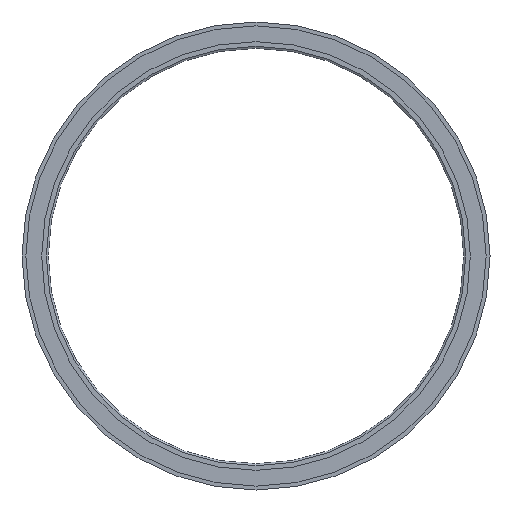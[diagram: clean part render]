
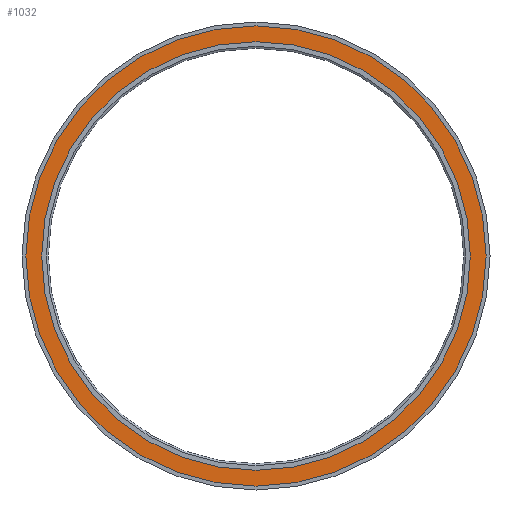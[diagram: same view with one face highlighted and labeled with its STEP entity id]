
A CAD part, left-side view. The second image highlights one B-rep face of the part: STEP entity #1032.
In plain terms, the highlighted planar face has unit normal (-1, 0, 0).
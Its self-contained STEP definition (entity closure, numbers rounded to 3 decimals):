
#391=CARTESIAN_POINT('',(2.,118.0,0.0));
#392=VERTEX_POINT('',#391);
#408=CARTESIAN_POINT('',(2.,-118.0,0.));
#409=VERTEX_POINT('',#408);
#416=CARTESIAN_POINT('',(2.,0.0,0.0));
#417=DIRECTION('',(1.0,0.0,0.0));
#418=DIRECTION('',(0.0,1.0,0.0));
#419=AXIS2_PLACEMENT_3D('',#416,#417,#418);
#420=CIRCLE('',#419,118.0);
#421=EDGE_CURVE('',#409,#392,#420,.T.);
#431=CARTESIAN_POINT('',(2.,109.9,0.0));
#432=VERTEX_POINT('',#431);
#441=CARTESIAN_POINT('',(2.,-109.9,0.));
#442=VERTEX_POINT('',#441);
#443=CARTESIAN_POINT('',(2.,0.0,0.0));
#444=DIRECTION('',(1.0,0.0,0.0));
#445=DIRECTION('',(0.0,1.0,0.0));
#446=AXIS2_PLACEMENT_3D('',#443,#444,#445);
#447=CIRCLE('',#446,109.9);
#448=EDGE_CURVE('',#442,#432,#447,.T.);
#1003=CARTESIAN_POINT('',(2.,0.0,0.0));
#1004=DIRECTION('',(1.0,0.0,0.0));
#1005=DIRECTION('',(0.0,1.0,0.0));
#1006=AXIS2_PLACEMENT_3D('',#1003,#1004,#1005);
#1007=CIRCLE('',#1006,109.9);
#1008=EDGE_CURVE('',#432,#442,#1007,.T.);
#1013=CARTESIAN_POINT('',(2.,113.95,0.0));
#1014=DIRECTION('',(-1.0,0.0,0.0));
#1015=DIRECTION('',(0.0,0.0,1.0));
#1016=AXIS2_PLACEMENT_3D('',#1013,#1014,#1015);
#1017=PLANE('',#1016);
#1018=CARTESIAN_POINT('',(2.,0.0,0.0));
#1019=DIRECTION('',(1.0,0.0,0.0));
#1020=DIRECTION('',(0.0,1.0,0.0));
#1021=AXIS2_PLACEMENT_3D('',#1018,#1019,#1020);
#1022=CIRCLE('',#1021,118.0);
#1023=EDGE_CURVE('',#392,#409,#1022,.T.);
#1024=ORIENTED_EDGE('',*,*,#1023,.F.);
#1025=ORIENTED_EDGE('',*,*,#421,.F.);
#1026=EDGE_LOOP('',(#1024,#1025));
#1027=FACE_OUTER_BOUND('',#1026,.T.);
#1028=ORIENTED_EDGE('',*,*,#1008,.T.);
#1029=ORIENTED_EDGE('',*,*,#448,.T.);
#1030=EDGE_LOOP('',(#1028,#1029));
#1031=FACE_BOUND('',#1030,.T.);
#1032=ADVANCED_FACE('',(#1027,#1031),#1017,.T.);
